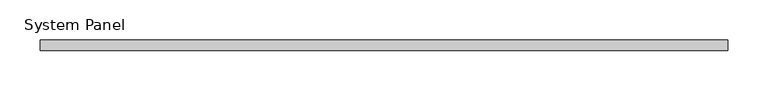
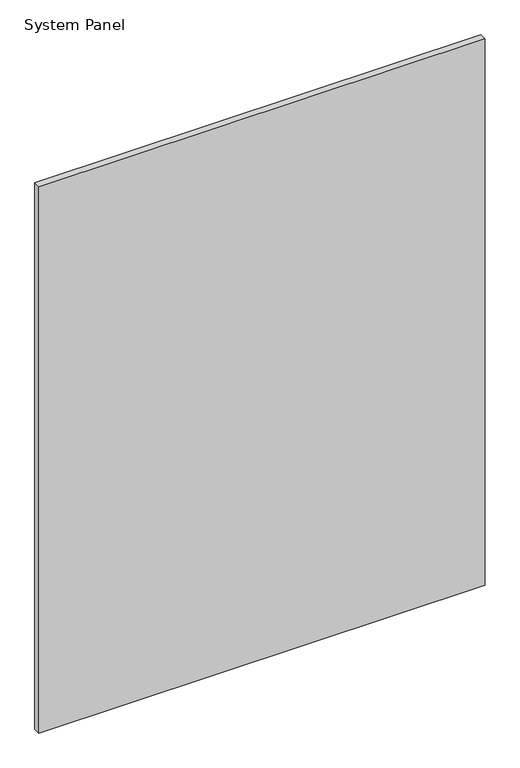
"""IFC4 building model written with IfcOpenShell, lengths in millimetres: plate geometry, System Panel : CR-BARANDA."""

from ifc_helpers import new_model, si_unit, origin, origin_with_axes, place, context, project, spatial, polyline, outline, extrude, source, transform, mapped, element, save


def system_panel_2392ed23(model_context):
    return source(origin(), model_context, "Body", "SweptSolid", [
        extrude(outline(polyline([(425.0, -6.25), (-425.0, -6.25), (-425.0, 6.25), (425.0, 6.25), (425.0, -6.25)])), origin_with_axes(), (0.0, 0.0, 1.0), 1100.0),
    ])


if __name__ == "__main__":
    model = new_model("IFC4")
    model_context = context("Model", 3, world=origin())
    ifc_project = project(units=[si_unit("LENGTHUNIT", "METRE", prefix="MILLI")], contexts=[model_context])
    site = spatial("IfcSite", under=ifc_project)
    building = spatial("IfcBuilding", under=site)
    placement = place(None, origin())
    system_panel_shape = system_panel_2392ed23(model_context)
    element("IfcPlate", 1, ObjectType="System Panel : CR-BARANDA", at=placement, inside=building, context=model_context, shape_type="MappedRepresentation", body=[
        mapped(system_panel_shape, transform((0.0, 0.0, 0.0), x_axis=(1.0, 0.0, 0.0), y_axis=(0.0, 1.0, 0.0), z_axis=(0.0, 0.0, 1.0))),
    ])
    save(model, "model.ifc")
